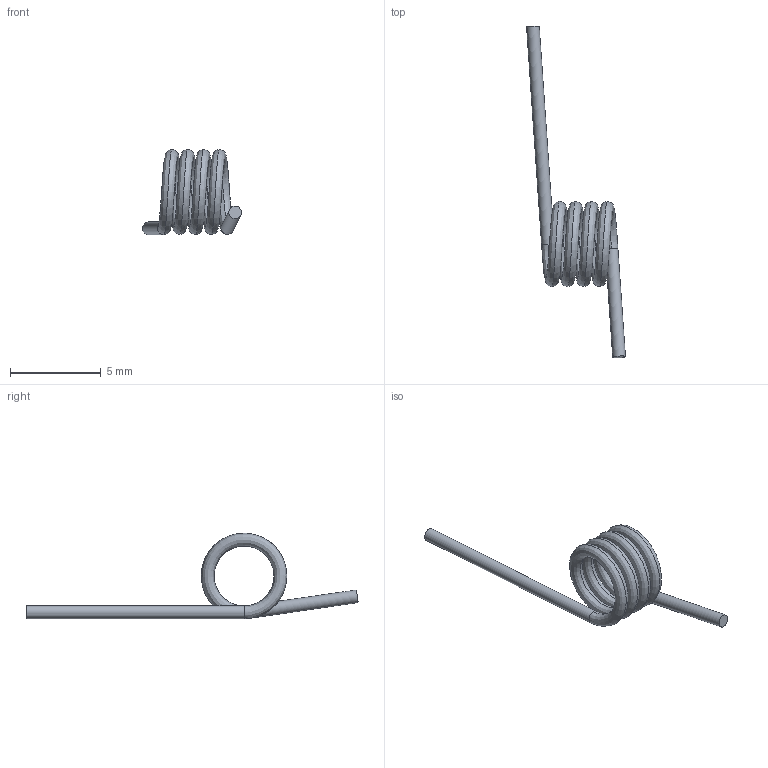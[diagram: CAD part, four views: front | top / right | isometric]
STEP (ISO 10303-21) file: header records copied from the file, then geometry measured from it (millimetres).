
FILE_DESCRIPTION(/* description */ (''),/* implementation_level */ '2;1');
FILE_NAME(/* name */ 'spring.stp',/* time_stamp */ '2023-08-14T21:49:24+03:00',/* author */ ('mosta'),/* organization */ (''),/* preprocessor_version */ 'ST-DEVELOPER v19.2',/* originating_system */ 'Autodesk Inventor 2024',/* authorisation */ '');
FILE_SCHEMA (('AUTOMOTIVE_DESIGN { 1 0 10303 214 3 1 1 }'));
Length unit declared in the file: millimetre
Products named in the file (1): spring
Bounding box: 5.44 x 18.26 x 4.7 mm (x, y, z)
Volume: 26.4 mm3; surface area: 151.8 mm2
Topology: 1 solids, 1 shells, 6 faces, 15 edges, 11 vertices
Faces by surface type: bspline 2, cylinder 2, plane 2
Full cylindrical faces by diameter (mm): 0.7 x2
Entity records: 2326 total; most frequent: CARTESIAN_POINT 2125, DIRECTION 34, ORIENTED_EDGE 30, AXIS2_PLACEMENT_3D 16, EDGE_CURVE 15, CIRCLE 11, VERTEX_POINT 11, FACE_OUTER_BOUND 6
